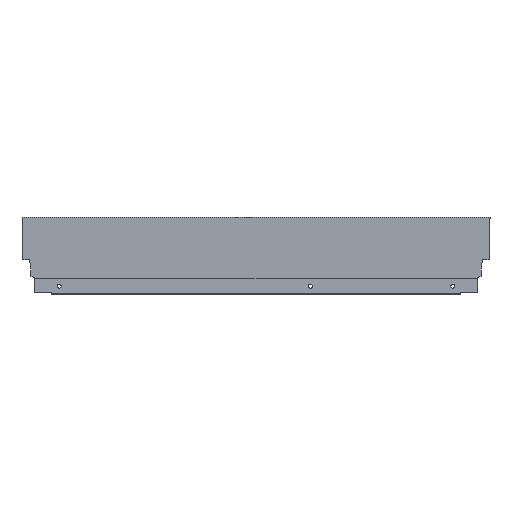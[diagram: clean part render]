
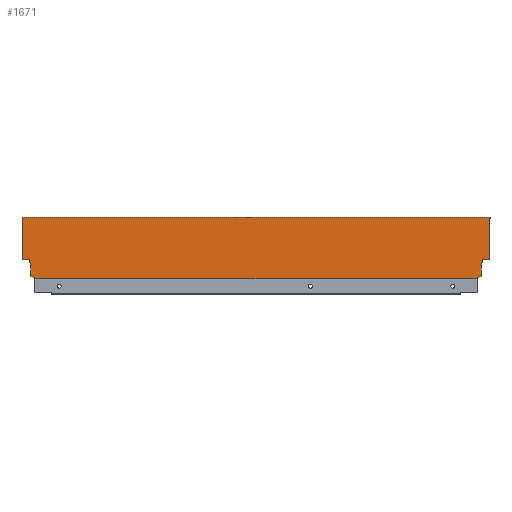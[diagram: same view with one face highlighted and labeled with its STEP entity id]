
A CAD part, top view. The second image highlights one B-rep face of the part: STEP entity #1671.
In plain terms, the highlighted planar face has unit normal (0, 0, 1).
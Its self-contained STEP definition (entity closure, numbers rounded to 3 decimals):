
#123 = AXIS2_PLACEMENT_3D ( 'NONE', #1233, #1239, #1240 ) ;
#145 = ORIENTED_EDGE ( 'NONE', *, *, #528, .F. ) ;
#153 = ORIENTED_EDGE ( 'NONE', *, *, #415, .F. ) ;
#172 = ORIENTED_EDGE ( 'NONE', *, *, #418, .F. ) ;
#177 = ORIENTED_EDGE ( 'NONE', *, *, #526, .T. ) ;
#196 = ORIENTED_EDGE ( 'NONE', *, *, #416, .F. ) ;
#213 = ORIENTED_EDGE ( 'NONE', *, *, #417, .T. ) ;
#219 = EDGE_LOOP ( 'NONE', ( #196, #153, #177, #213, #172, #145, #277, #275, #263, #276, #271, #268, #241, #247, #267, #270, #269, #274 ) ) ;
#241 = ORIENTED_EDGE ( 'NONE', *, *, #422, .F. ) ;
#247 = ORIENTED_EDGE ( 'NONE', *, *, #424, .F. ) ;
#263 = ORIENTED_EDGE ( 'NONE', *, *, #421, .F. ) ;
#267 = ORIENTED_EDGE ( 'NONE', *, *, #426, .F. ) ;
#268 = ORIENTED_EDGE ( 'NONE', *, *, #425, .F. ) ;
#269 = ORIENTED_EDGE ( 'NONE', *, *, #428, .F. ) ;
#270 = ORIENTED_EDGE ( 'NONE', *, *, #395, .F. ) ;
#271 = ORIENTED_EDGE ( 'NONE', *, *, #423, .F. ) ;
#274 = ORIENTED_EDGE ( 'NONE', *, *, #430, .F. ) ;
#275 = ORIENTED_EDGE ( 'NONE', *, *, #420, .F. ) ;
#276 = ORIENTED_EDGE ( 'NONE', *, *, #386, .T. ) ;
#277 = ORIENTED_EDGE ( 'NONE', *, *, #419, .F. ) ;
#366 = VECTOR ( 'NONE', #918, 1000. ) ;
#386 = EDGE_CURVE ( 'NONE', #662, #648, #1484, .T. ) ;
#395 = EDGE_CURVE ( 'NONE', #623, #627, #1478, .T. ) ;
#415 = EDGE_CURVE ( 'NONE', #642, #649, #1433, .T. ) ;
#416 = EDGE_CURVE ( 'NONE', #649, #586, #1430, .T. ) ;
#417 = EDGE_CURVE ( 'NONE', #596, #602, #1434, .T. ) ;
#418 = EDGE_CURVE ( 'NONE', #607, #602, #1424, .T. ) ;
#419 = EDGE_CURVE ( 'NONE', #664, #647, #1442, .T. ) ;
#420 = EDGE_CURVE ( 'NONE', #617, #664, #1427, .T. ) ;
#421 = EDGE_CURVE ( 'NONE', #662, #617, #1425, .T. ) ;
#422 = EDGE_CURVE ( 'NONE', #601, #594, #1416, .T. ) ;
#423 = EDGE_CURVE ( 'NONE', #609, #648, #1421, .T. ) ;
#424 = EDGE_CURVE ( 'NONE', #585, #601, #1410, .T. ) ;
#425 = EDGE_CURVE ( 'NONE', #594, #609, #1419, .T. ) ;
#426 = EDGE_CURVE ( 'NONE', #627, #585, #1417, .T. ) ;
#428 = EDGE_CURVE ( 'NONE', #582, #623, #1407, .T. ) ;
#430 = EDGE_CURVE ( 'NONE', #586, #582, #1405, .T. ) ;
#526 = EDGE_CURVE ( 'NONE', #642, #596, #1351, .T. ) ;
#528 = EDGE_CURVE ( 'NONE', #647, #607, #1369, .T. ) ;
#582 = VERTEX_POINT ( 'NONE', #1137 ) ;
#585 = VERTEX_POINT ( 'NONE', #1123 ) ;
#586 = VERTEX_POINT ( 'NONE', #1139 ) ;
#594 = VERTEX_POINT ( 'NONE', #1147 ) ;
#596 = VERTEX_POINT ( 'NONE', #1149 ) ;
#601 = VERTEX_POINT ( 'NONE', #1154 ) ;
#602 = VERTEX_POINT ( 'NONE', #1155 ) ;
#607 = VERTEX_POINT ( 'NONE', #1160 ) ;
#609 = VERTEX_POINT ( 'NONE', #1162 ) ;
#617 = VERTEX_POINT ( 'NONE', #1170 ) ;
#623 = VERTEX_POINT ( 'NONE', #1176 ) ;
#627 = VERTEX_POINT ( 'NONE', #1180 ) ;
#642 = VERTEX_POINT ( 'NONE', #1195 ) ;
#647 = VERTEX_POINT ( 'NONE', #1200 ) ;
#648 = VERTEX_POINT ( 'NONE', #1201 ) ;
#649 = VERTEX_POINT ( 'NONE', #1202 ) ;
#662 = VERTEX_POINT ( 'NONE', #1215 ) ;
#664 = VERTEX_POINT ( 'NONE', #1217 ) ;
#817 = CARTESIAN_POINT ( 'NONE',  ( -515., 0., 7.5 ) ) ;
#827 = DIRECTION ( 'NONE',  ( 1., 0., 0. ) ) ;
#837 = CARTESIAN_POINT ( 'NONE',  ( 0., 0., 7.5 ) ) ;
#842 = DIRECTION ( 'NONE',  ( 0., -1., 0. ) ) ;
#882 = CARTESIAN_POINT ( 'NONE',  ( -515., 68., 7.5 ) ) ;
#887 = CARTESIAN_POINT ( 'NONE',  ( -516., 66.5, 7.5 ) ) ;
#888 = DIRECTION ( 'NONE',  ( 0., 1., 0. ) ) ;
#889 = CARTESIAN_POINT ( 'NONE',  ( -515., 0., 7.5 ) ) ;
#890 = DIRECTION ( 'NONE',  ( 1., 0., 0. ) ) ;
#891 = CARTESIAN_POINT ( 'NONE',  ( -506.1, 10.765, 7.5 ) ) ;
#892 = DIRECTION ( 'NONE',  ( 0., -1., 0. ) ) ;
#893 = CARTESIAN_POINT ( 'NONE',  ( -520., 21.2, 7.5 ) ) ;
#894 = DIRECTION ( 'NONE',  ( -1., 0., 0. ) ) ;
#895 = CARTESIAN_POINT ( 'NONE',  ( -506.1, 2.64, 7.5 ) ) ;
#896 = DIRECTION ( 'NONE',  ( 0., 1., 0. ) ) ;
#897 = CARTESIAN_POINT ( 'NONE',  ( -501.996, 1.146, 7.5 ) ) ;
#898 = DIRECTION ( 'NONE',  ( -0.94, 0.342, 0. ) ) ;
#899 = CARTESIAN_POINT ( 'NONE',  ( -13.004, 1.146, 7.5 ) ) ;
#900 = DIRECTION ( 'NONE',  ( 0., 1., 0. ) ) ;
#901 = CARTESIAN_POINT ( 'NONE',  ( -8.9, 10.765, 7.5 ) ) ;
#902 = DIRECTION ( 'NONE',  ( 0., -1., 0. ) ) ;
#903 = CARTESIAN_POINT ( 'NONE',  ( -8.9, 2.64, 7.5 ) ) ;
#904 = DIRECTION ( 'NONE',  ( 0., -1., 0. ) ) ;
#905 = CARTESIAN_POINT ( 'NONE',  ( -7.06, 21.2, 7.5 ) ) ;
#906 = DIRECTION ( 'NONE',  ( -0.174, -0.985, 0. ) ) ;
#907 = CARTESIAN_POINT ( 'NONE',  ( 0., 21.2, 7.5 ) ) ;
#908 = DIRECTION ( 'NONE',  ( -0.94, -0.342, 0. ) ) ;
#910 = DIRECTION ( 'NONE',  ( -1., 0., 0. ) ) ;
#911 = CARTESIAN_POINT ( 'NONE',  ( 1., 66.5, 7.5 ) ) ;
#913 = CARTESIAN_POINT ( 'NONE',  ( 1., 68., 7.5 ) ) ;
#914 = DIRECTION ( 'NONE',  ( -1., 0., 0. ) ) ;
#918 = DIRECTION ( 'NONE',  ( 0., -1., 0. ) ) ;
#1109 = CARTESIAN_POINT ( 'NONE',  ( -507.94, 21.2, 7.5 ) ) ;
#1114 = CARTESIAN_POINT ( 'NONE',  ( -516., 66.5, 7.5 ) ) ;
#1115 = DIRECTION ( 'NONE',  ( 1., 0., 0. ) ) ;
#1120 = DIRECTION ( 'NONE',  ( -0.174, 0.985, 0. ) ) ;
#1123 = CARTESIAN_POINT ( 'NONE',  ( -7.06, 21.2, 7.5 ) ) ;
#1137 = CARTESIAN_POINT ( 'NONE',  ( 1., 66.5, 7.5 ) ) ;
#1139 = CARTESIAN_POINT ( 'NONE',  ( 1., 68., 7.5 ) ) ;
#1147 = CARTESIAN_POINT ( 'NONE',  ( -8.9, 2.64, 7.5 ) ) ;
#1149 = CARTESIAN_POINT ( 'NONE',  ( -515., 66.5, 7.5 ) ) ;
#1154 = CARTESIAN_POINT ( 'NONE',  ( -8.9, 10.765, 7.5 ) ) ;
#1155 = CARTESIAN_POINT ( 'NONE',  ( -515., 21.2, 7.5 ) ) ;
#1160 = CARTESIAN_POINT ( 'NONE',  ( -507.94, 21.2, 7.5 ) ) ;
#1162 = CARTESIAN_POINT ( 'NONE',  ( -13.004, 1.146, 7.5 ) ) ;
#1170 = CARTESIAN_POINT ( 'NONE',  ( -501.996, 1.146, 7.5 ) ) ;
#1176 = CARTESIAN_POINT ( 'NONE',  ( 0., 66.5, 7.5 ) ) ;
#1180 = CARTESIAN_POINT ( 'NONE',  ( 0., 21.2, 7.5 ) ) ;
#1195 = CARTESIAN_POINT ( 'NONE',  ( -516., 66.5, 7.5 ) ) ;
#1200 = CARTESIAN_POINT ( 'NONE',  ( -506.1, 10.765, 7.5 ) ) ;
#1201 = CARTESIAN_POINT ( 'NONE',  ( -13.004, 0., 7.5 ) ) ;
#1202 = CARTESIAN_POINT ( 'NONE',  ( -516., 68., 7.5 ) ) ;
#1215 = CARTESIAN_POINT ( 'NONE',  ( -501.996, 0., 7.5 ) ) ;
#1217 = CARTESIAN_POINT ( 'NONE',  ( -506.1, 2.64, 7.5 ) ) ;
#1226 = PLANE ( 'NONE',  #123 ) ;
#1233 = CARTESIAN_POINT ( 'NONE',  ( -515., 0., 7.5 ) ) ;
#1239 = DIRECTION ( 'NONE',  ( 0., 0., 1. ) ) ;
#1240 = DIRECTION ( 'NONE',  ( 1., 0., 0. ) ) ;
#1351 = LINE ( 'NONE', #1114, #1367 ) ;
#1367 = VECTOR ( 'NONE', #1115, 1000. ) ;
#1369 = LINE ( 'NONE', #1109, #1373 ) ;
#1373 = VECTOR ( 'NONE', #1120, 1000. ) ;
#1387 = FACE_OUTER_BOUND ( 'NONE', #219, .T. ) ;
#1405 = LINE ( 'NONE', #913, #366 ) ;
#1406 = VECTOR ( 'NONE', #910, 1000. ) ;
#1407 = LINE ( 'NONE', #911, #1515 ) ;
#1408 = VECTOR ( 'NONE', #908, 1000. ) ;
#1409 = VECTOR ( 'NONE', #906, 1000. ) ;
#1410 = LINE ( 'NONE', #905, #1409 ) ;
#1413 = VECTOR ( 'NONE', #904, 1000. ) ;
#1414 = VECTOR ( 'NONE', #902, 1000. ) ;
#1416 = LINE ( 'NONE', #901, #1414 ) ;
#1417 = LINE ( 'NONE', #907, #1406 ) ;
#1418 = VECTOR ( 'NONE', #900, 1000. ) ;
#1419 = LINE ( 'NONE', #903, #1408 ) ;
#1420 = VECTOR ( 'NONE', #898, 1000. ) ;
#1421 = LINE ( 'NONE', #899, #1413 ) ;
#1422 = VECTOR ( 'NONE', #896, 1000. ) ;
#1423 = VECTOR ( 'NONE', #894, 1000. ) ;
#1424 = LINE ( 'NONE', #893, #1423 ) ;
#1425 = LINE ( 'NONE', #897, #1418 ) ;
#1426 = VECTOR ( 'NONE', #892, 1000. ) ;
#1427 = LINE ( 'NONE', #895, #1420 ) ;
#1428 = VECTOR ( 'NONE', #890, 1000. ) ;
#1430 = LINE ( 'NONE', #882, #1428 ) ;
#1432 = VECTOR ( 'NONE', #888, 1000. ) ;
#1433 = LINE ( 'NONE', #887, #1432 ) ;
#1434 = LINE ( 'NONE', #889, #1426 ) ;
#1442 = LINE ( 'NONE', #891, #1422 ) ;
#1465 = VECTOR ( 'NONE', #842, 1000. ) ;
#1478 = LINE ( 'NONE', #837, #1465 ) ;
#1480 = VECTOR ( 'NONE', #827, 1000. ) ;
#1484 = LINE ( 'NONE', #817, #1480 ) ;
#1515 = VECTOR ( 'NONE', #914, 1000. ) ;
#1671 = ADVANCED_FACE ( 'NONE', ( #1387 ), #1226, .T. ) ;
